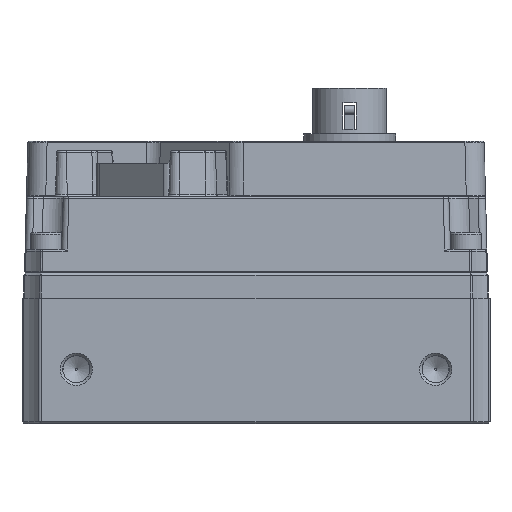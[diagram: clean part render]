
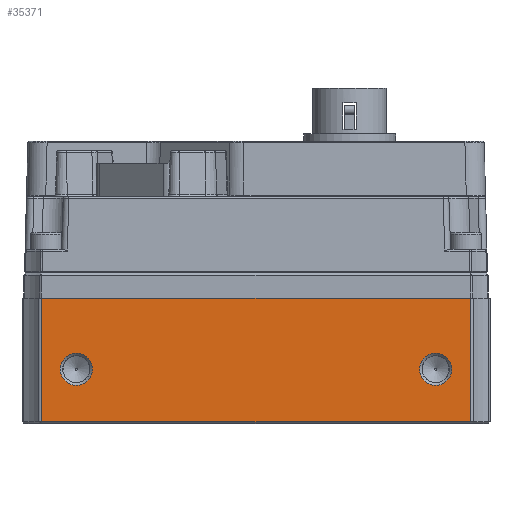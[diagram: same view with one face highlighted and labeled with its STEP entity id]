
A CAD part, front view. The second image highlights one B-rep face of the part: STEP entity #35371.
In plain terms, the highlighted planar face has unit normal (0, -1, 0).
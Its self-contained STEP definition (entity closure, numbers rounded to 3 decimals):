
#483=FACE_BOUND('',#5260,.T.);
#484=FACE_BOUND('',#5261,.T.);
#1969=PLANE('',#37661);
#3358=FACE_OUTER_BOUND('',#5259,.T.);
#5259=EDGE_LOOP('',(#26265,#26266,#26267,#26268));
#5260=EDGE_LOOP('',(#26269));
#5261=EDGE_LOOP('',(#26270));
#6847=CIRCLE('',#37655,1.921);
#6850=CIRCLE('',#37662,1.921);
#8509=LINE('',#52811,#11774);
#8518=LINE('',#52862,#11783);
#8595=LINE('',#53923,#11860);
#8625=LINE('',#54013,#11890);
#11774=VECTOR('',#41679,10.);
#11783=VECTOR('',#41732,10.);
#11860=VECTOR('',#42549,10.);
#11890=VECTOR('',#42655,10.);
#15005=VERTEX_POINT('',#52805);
#15007=VERTEX_POINT('',#52809);
#15027=VERTEX_POINT('',#52860);
#15216=VERTEX_POINT('',#53920);
#15280=VERTEX_POINT('',#54145);
#15284=VERTEX_POINT('',#54158);
#18767=EDGE_CURVE('',#15005,#15007,#8509,.T.);
#18792=EDGE_CURVE('',#15007,#15027,#8518,.T.);
#19155=EDGE_CURVE('',#15216,#15027,#8595,.T.);
#19202=EDGE_CURVE('',#15005,#15216,#8625,.T.);
#19271=EDGE_CURVE('',#15280,#15280,#6847,.T.);
#19278=EDGE_CURVE('',#15284,#15284,#6850,.T.);
#26265=ORIENTED_EDGE('',*,*,#19202,.F.);
#26266=ORIENTED_EDGE('',*,*,#18767,.T.);
#26267=ORIENTED_EDGE('',*,*,#18792,.T.);
#26268=ORIENTED_EDGE('',*,*,#19155,.F.);
#26269=ORIENTED_EDGE('',*,*,#19271,.F.);
#26270=ORIENTED_EDGE('',*,*,#19278,.F.);
#35371=ADVANCED_FACE('',(#3358,#483,#484),#1969,.T.);
#37655=AXIS2_PLACEMENT_3D('',#54146,#42816,#42817);
#37661=AXIS2_PLACEMENT_3D('',#54157,#42830,#42831);
#37662=AXIS2_PLACEMENT_3D('',#54159,#42832,#42833);
#41679=DIRECTION('',(0.,0.,1.));
#41732=DIRECTION('',(-1.,0.,0.));
#42549=DIRECTION('',(0.,0.,1.));
#42655=DIRECTION('',(-1.,0.,0.));
#42816=DIRECTION('center_axis',(0.,-1.,0.));
#42817=DIRECTION('ref_axis',(1.,0.,0.));
#42830=DIRECTION('center_axis',(0.,-1.,0.));
#42831=DIRECTION('ref_axis',(0.,0.,-1.));
#42832=DIRECTION('center_axis',(0.,-1.,0.));
#42833=DIRECTION('ref_axis',(1.,0.,0.));
#52805=CARTESIAN_POINT('',(25.645,-31.,0.2));
#52809=CARTESIAN_POINT('',(25.645,-31.,15.));
#52811=CARTESIAN_POINT('',(25.645,-31.,0.));
#52860=CARTESIAN_POINT('',(-25.645,-31.,15.));
#52862=CARTESIAN_POINT('',(12.823,-31.,15.));
#53920=CARTESIAN_POINT('',(-25.645,-31.,0.2));
#53923=CARTESIAN_POINT('',(-25.645,-31.,0.));
#54013=CARTESIAN_POINT('',(12.823,-31.,0.2));
#54145=CARTESIAN_POINT('',(19.579,-31.,6.5));
#54146=CARTESIAN_POINT('Origin',(21.5,-31.,6.5));
#54157=CARTESIAN_POINT('Origin',(25.645,-31.,0.));
#54158=CARTESIAN_POINT('',(-23.421,-31.,6.5));
#54159=CARTESIAN_POINT('Origin',(-21.5,-31.,6.5));
